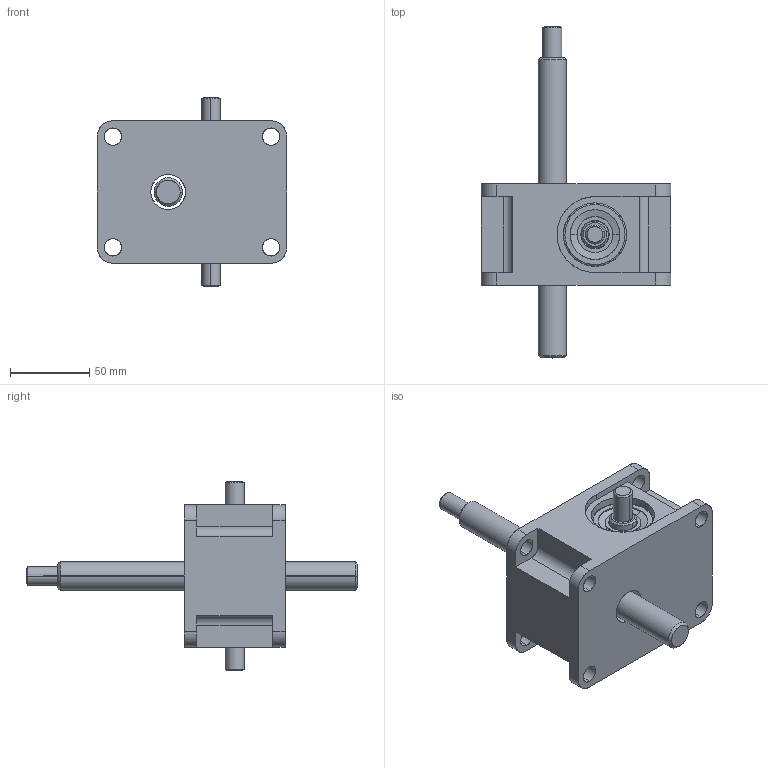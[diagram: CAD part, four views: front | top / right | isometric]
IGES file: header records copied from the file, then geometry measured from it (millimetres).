
Start section: SolidWorks IGES file using analytic representation for surfaces
Global section: file name: E:\3D\desenv\Solid Works\Levy\web\LMA\LMA0.5_1.0\LMA0.5_1.0.IGS; native system: SolidWorks 2008; preprocessor: SolidWorks 2008; author: User; date: 080730.212339; units: millimetre
Bounding box: 120 x 210 x 120 mm (x, y, z)
Surface area: 93510.3 mm2 (no closed solid volume)
Topology: 0 solids, 0 shells, 170 faces, 3218 edges, 3218 vertices
Faces by surface type: revolution 119, bspline 51
